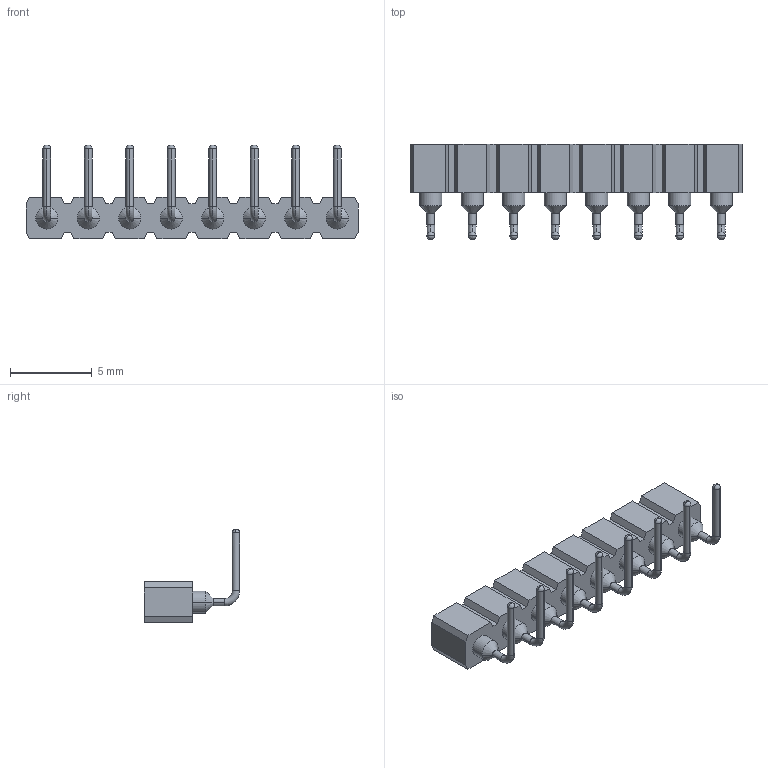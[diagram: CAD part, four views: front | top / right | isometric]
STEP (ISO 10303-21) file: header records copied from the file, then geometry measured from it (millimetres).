
FILE_DESCRIPTION(('STEP AP203'),'1');
FILE_NAME('399-87-108-10-003101.stp','2022-03-20T12:19:08',('TraceParts'),('TraceParts S.A.'),'Spatial InterOp 3D',' ',' ');
FILE_SCHEMA(('CONFIG_CONTROL_DESIGN'));
Length unit declared in the file: millimetre
Products named in the file (1): 1
Bounding box: 20.32 x 5.83 x 5.74 mm (x, y, z)
Volume: 138 mm3; surface area: 490.6 mm2
Topology: 1 solids, 1 shells, 386 faces, 872 edges, 488 vertices
Faces by surface type: cone 160, plane 98, cylinder 96, torus 16, sphere 16
Entity records: 10372 total; most frequent: DIRECTION 1990, CARTESIAN_POINT 1699, ORIENTED_EDGE 1648, EDGE_CURVE 824, AXIS2_PLACEMENT_3D 779, VERTEX_POINT 488, EDGE_LOOP 434, LINE 432
